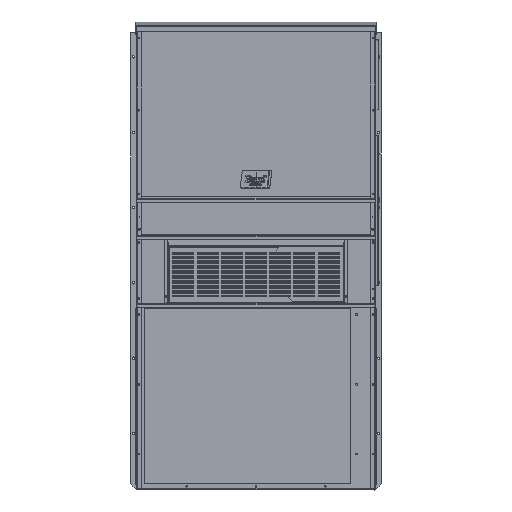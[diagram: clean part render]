
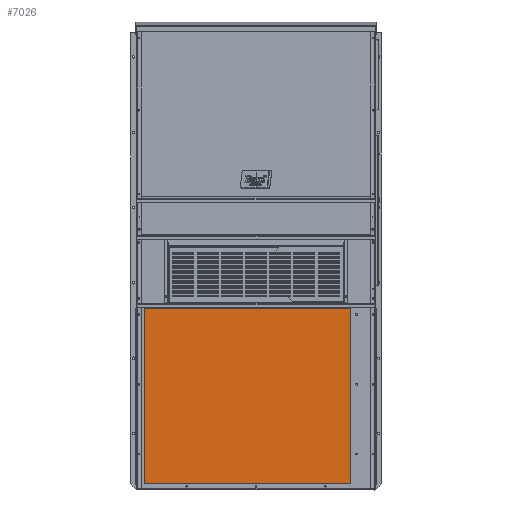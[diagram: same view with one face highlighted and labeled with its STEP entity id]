
A CAD part, top view. The second image highlights one B-rep face of the part: STEP entity #7026.
In plain terms, the highlighted planar face has unit normal (0, 0, 1).
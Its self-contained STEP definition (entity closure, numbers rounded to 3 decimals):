
#4259 = ORIENTED_EDGE ( 'NONE', *, *, #88642, .F. ) ;
#4284 = EDGE_CURVE ( 'NONE', #139818, #13415, #113889, .T. ) ;
#7026 = ADVANCED_FACE ( 'NONE', ( #29773 ), #32844, .F. ) ;
#13415 = VERTEX_POINT ( 'NONE', #146691 ) ;
#14360 = CARTESIAN_POINT ( 'NONE',  ( -16.012, -24.301, 9.225 ) ) ;
#15562 = CARTESIAN_POINT ( 'NONE',  ( 16.914, -24.301, 9.225 ) ) ;
#15616 = DIRECTION ( 'NONE',  ( 1., 0., 0. ) ) ;
#15815 = CARTESIAN_POINT ( 'NONE',  ( -16.012, -24.301, 9.225 ) ) ;
#22080 = CARTESIAN_POINT ( 'NONE',  ( -16.012, -24.301, 9.225 ) ) ;
#23070 = CARTESIAN_POINT ( 'NONE',  ( -16.012, -52.199, 9.225 ) ) ;
#27696 = ORIENTED_EDGE ( 'NONE', *, *, #4284, .F. ) ;
#27874 = VECTOR ( 'NONE', #79013, 39.37 ) ;
#29773 = FACE_OUTER_BOUND ( 'NONE', #139046, .T. ) ;
#32844 = PLANE ( 'NONE',  #117643 ) ;
#33942 = VERTEX_POINT ( 'NONE', #111107 ) ;
#37829 = VECTOR ( 'NONE', #139211, 39.37 ) ;
#58801 = DIRECTION ( 'NONE',  ( -1., 0., 0. ) ) ;
#60929 = EDGE_CURVE ( 'NONE', #33942, #168179, #163092, .T. ) ;
#72773 = DIRECTION ( 'NONE',  ( 0., 0., -1. ) ) ;
#73806 = CARTESIAN_POINT ( 'NONE',  ( -16.012, -52.199, 9.225 ) ) ;
#75947 = ORIENTED_EDGE ( 'NONE', *, *, #60929, .F. ) ;
#79013 = DIRECTION ( 'NONE',  ( 0., 1., 0. ) ) ;
#79800 = ORIENTED_EDGE ( 'NONE', *, *, #128977, .F. ) ;
#88642 = EDGE_CURVE ( 'NONE', #13415, #33942, #141516, .T. ) ;
#111107 = CARTESIAN_POINT ( 'NONE',  ( 16.914, -52.199, 9.225 ) ) ;
#113074 = CARTESIAN_POINT ( 'NONE',  ( 16.914, -24.301, 9.225 ) ) ;
#113889 = LINE ( 'NONE', #15815, #144395 ) ;
#113952 = DIRECTION ( 'NONE',  ( -1., 0., 0. ) ) ;
#117643 = AXIS2_PLACEMENT_3D ( 'NONE', #15562, #72773, #58801 ) ;
#128977 = EDGE_CURVE ( 'NONE', #168179, #139818, #162014, .T. ) ;
#136683 = VECTOR ( 'NONE', #113952, 39.37 ) ;
#139046 = EDGE_LOOP ( 'NONE', ( #75947, #4259, #27696, #79800 ) ) ;
#139211 = DIRECTION ( 'NONE',  ( 0., -1., 0. ) ) ;
#139818 = VERTEX_POINT ( 'NONE', #22080 ) ;
#141516 = LINE ( 'NONE', #113074, #37829 ) ;
#144395 = VECTOR ( 'NONE', #15616, 39.37 ) ;
#146691 = CARTESIAN_POINT ( 'NONE',  ( 16.914, -24.301, 9.225 ) ) ;
#162014 = LINE ( 'NONE', #14360, #27874 ) ;
#163092 = LINE ( 'NONE', #23070, #136683 ) ;
#168179 = VERTEX_POINT ( 'NONE', #73806 ) ;
